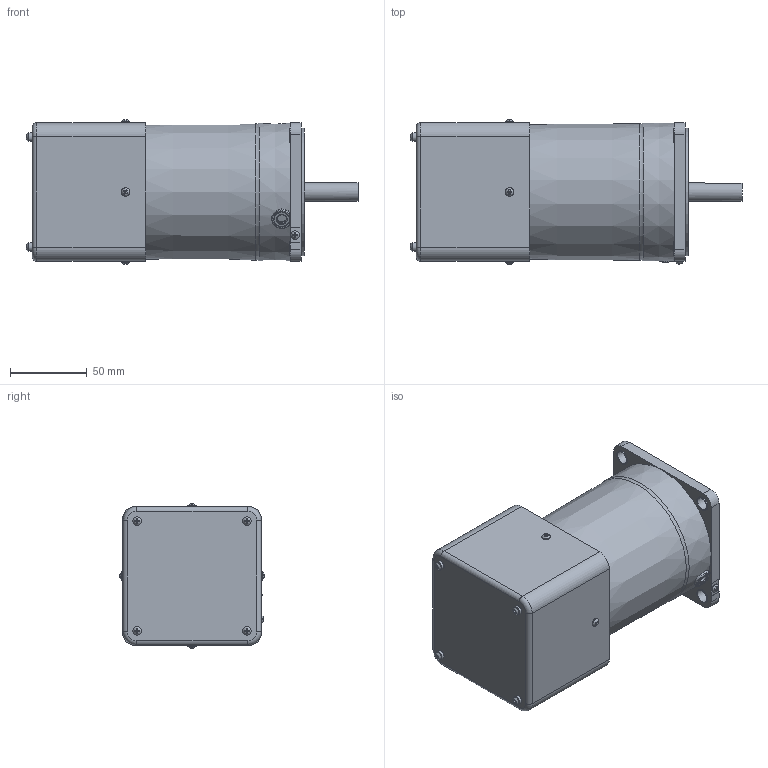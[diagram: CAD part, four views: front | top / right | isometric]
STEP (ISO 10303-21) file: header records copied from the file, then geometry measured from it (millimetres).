
FILE_DESCRIPTION(/* description */ (''),/* implementation_level */ '2;1');
FILE_NAME(/* name */ 'E:\도면작업\2016\0704) 미주향 SG 도면\3D MOTOR\SPEED CONTROL TYPE\SG9I90K_-S12(24).stp',/* time_stamp */ '2017-08-21T11:15:25+09:00',/* author */ ('jy-jung'),/* organization */ (''),/* preprocessor_version */ 'ST-DEVELOPER v15.6',/* originating_system */ 'Autodesk Inventor 2015',/* authorisation */ '');
FILE_SCHEMA (('AUTOMOTIVE_DESIGN { 1 0 10303 214 3 1 1 }'));
Length unit declared in the file: millimetre
Products named in the file (1): 부품27
Bounding box: 215.75 x 93.89 x 93.89 mm (x, y, z)
Volume: 965778.9 mm3; surface area: 105498.4 mm2
Topology: 1 solids, 7 shells, 311 faces, 760 edges, 492 vertices
Faces by surface type: plane 195, cylinder 73, torus 27, bspline 9, cone 7
Full cylindrical faces by diameter (mm): 3 x8, 4.5 x4, 5.6 x13, 6 x1, 8.5 x4, 9.5 x4, 10 x1, 12 x1, 40 x1, 83 x1
Entity records: 9731 total; most frequent: CARTESIAN_POINT 2471, ORIENTED_EDGE 1382, DIRECTION 1349, EDGE_CURVE 691, AXIS2_PLACEMENT_3D 491, VERTEX_POINT 487, EDGE_LOOP 422, LINE 367
